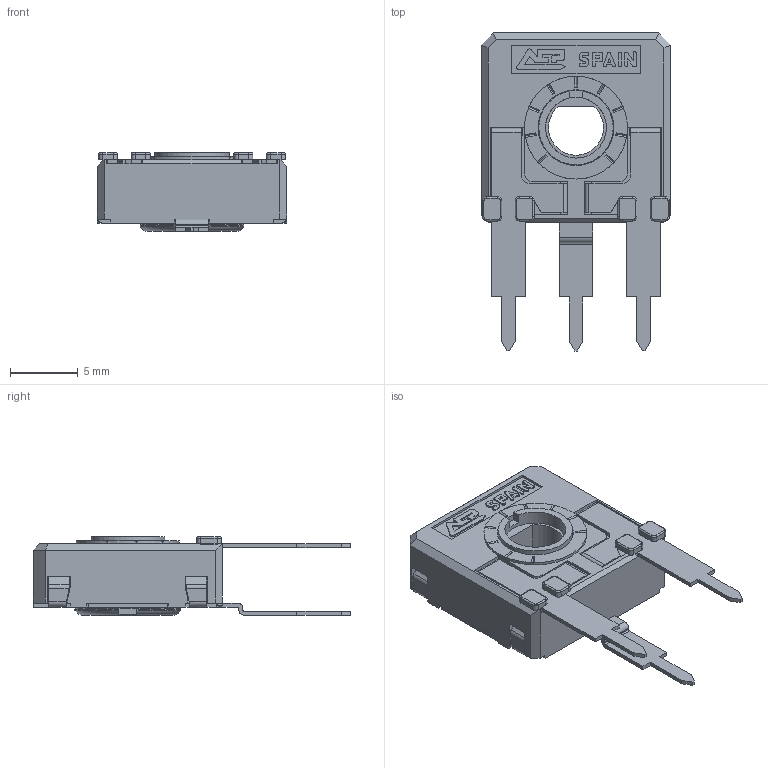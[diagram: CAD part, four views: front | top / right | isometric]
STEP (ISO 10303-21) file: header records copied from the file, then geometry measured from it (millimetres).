
FILE_DESCRIPTION(/* description */ (''),/* implementation_level */ '2;1');
FILE_NAME(/* name */ '\\SERVERACP\intercambio\Ignacio Santa Cecilia\Nueva WEB 2025\CA14 - CE14\CA14DHA5.stp',/* time_stamp */ '2025-06-06T10:00:47+02:00',/* author */ ('CEM'),/* organization */ (''),/* preprocessor_version */ 'ST-DEVELOPER v17',/* originating_system */ 'Autodesk Inventor 2018',/* authorisation */ '');
FILE_SCHEMA (('AUTOMOTIVE_DESIGN { 1 0 10303 214 3 1 1 }'));
Length unit declared in the file: millimetre
Products named in the file (1): CARCASA CA14 PGA
Bounding box: 14 x 23.5 x 5.8 mm (x, y, z)
Volume: 533.3 mm3; surface area: 1494.8 mm2
Topology: 1 solids, 1 shells, 664 faces, 1875 edges, 1207 vertices
Faces by surface type: plane 493, cylinder 134, torus 23, bspline 8, cone 6
Full cylindrical faces by diameter (mm): 4.5 x1, 5.5 x1, 5.6 x1, 5.752 x1, 6.8 x1, 7.6 x1
Entity records: 21677 total; most frequent: CARTESIAN_POINT 4044, ORIENTED_EDGE 3750, DIRECTION 3497, EDGE_CURVE 1875, LINE 1477, VECTOR 1477, VERTEX_POINT 1207, AXIS2_PLACEMENT_3D 1010
